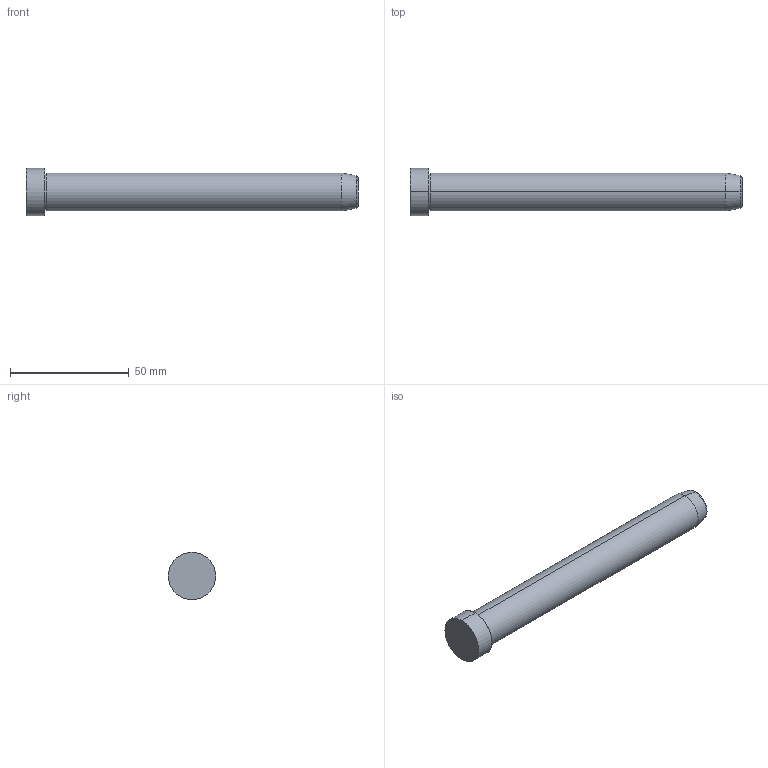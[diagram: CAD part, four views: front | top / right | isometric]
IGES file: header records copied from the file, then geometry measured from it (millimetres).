
Start section: SolidWorks IGES FILE using analytic representation for surfaces
Global section: file name: D:\zzzzz\Delta\D01 D\16\D01 D - 16x140.IGS; native system: SolidWorks 2004 by SolidWorks Corporation; preprocessor: Version 5.3; author: Hkn; date: 080326.194123; units: millimetre
Bounding box: 140 x 20 x 20 mm (x, y, z)
Surface area: 7698.3 mm2 (no closed solid volume)
Topology: 0 solids, 0 shells, 14 faces, 232 edges, 232 vertices
Faces by surface type: revolution 8, bspline 6
